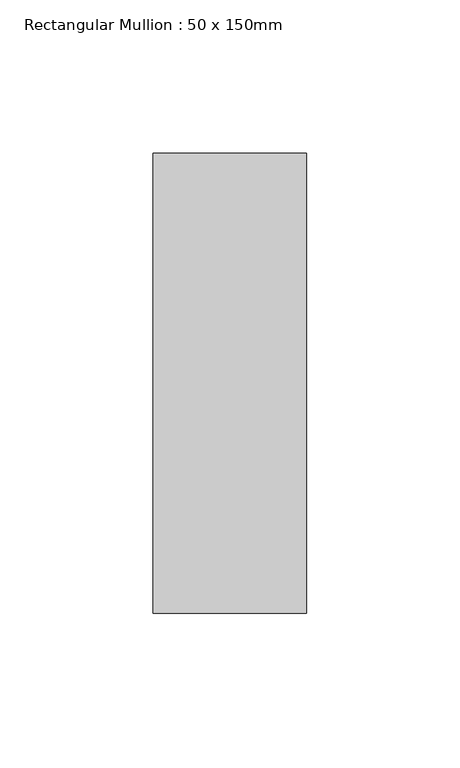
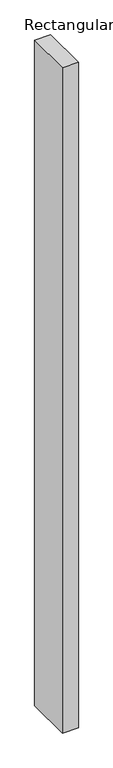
"""IFC4 building model written with IfcOpenShell, lengths in millimetres: member geometry, Rectangular Mullion : 50 x 150mm."""

from ifc_helpers import new_model, si_unit, frame, origin, place, context, project, spatial, polyline, outline, extrude, source, transform, mapped, element, save


def rectangular_mullion_50_x_150mm_9cef7b28(model_context):
    return source(origin(), model_context, "Body", "SweptSolid", [
        extrude(outline(polyline([(25.0, 75.0), (25.0, -75.0), (-25.0, -75.0), (-25.0, 75.0), (25.0, 75.0)])), frame((0.0, 0.0, -2200.0), z_axis=(0.0, 0.0, 1.0), x_axis=(1.0, 0.0, 0.0)), (0.0, 0.0, 1.0), 2200.0),
    ])


if __name__ == "__main__":
    model = new_model("IFC4")
    model_context = context("Model", 3, world=origin())
    ifc_project = project(units=[si_unit("LENGTHUNIT", "METRE", prefix="MILLI")], contexts=[model_context])
    site = spatial("IfcSite", under=ifc_project)
    building = spatial("IfcBuilding", under=site)
    placement = place(None, origin())
    rectangular_mullion_50_x_150mm_shape = rectangular_mullion_50_x_150mm_9cef7b28(model_context)
    element("IfcMember", 1, ObjectType="Rectangular Mullion : 50 x 150mm", at=placement, inside=building, context=model_context, shape_type="MappedRepresentation", body=[
        mapped(rectangular_mullion_50_x_150mm_shape, transform((0.0, 0.0, 0.0), x_axis=(1.0, 0.0, 0.0), y_axis=(0.0, 1.0, 0.0), z_axis=(0.0, 0.0, 1.0))),
    ])
    save(model, "model.ifc")
